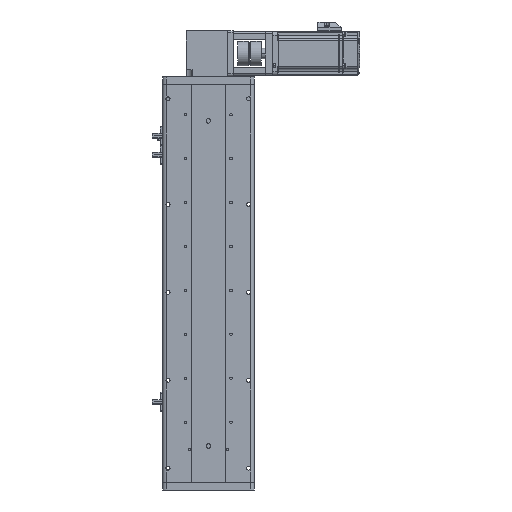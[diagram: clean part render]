
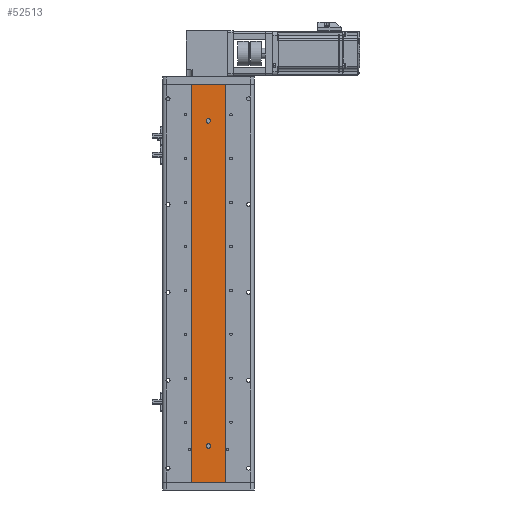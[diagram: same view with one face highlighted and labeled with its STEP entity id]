
A CAD part, front view. The second image highlights one B-rep face of the part: STEP entity #52513.
In plain terms, the highlighted planar face has unit normal (0, -1, 0).
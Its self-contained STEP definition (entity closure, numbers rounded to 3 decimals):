
#13 = CARTESIAN_POINT ( 'NONE',  ( 0., 1., 222. ) ) ;
#335 = VERTEX_POINT ( 'NONE', #32648 ) ;
#671 = ORIENTED_EDGE ( 'NONE', *, *, #19898, .T. ) ;
#825 = ORIENTED_EDGE ( 'NONE', *, *, #38889, .F. ) ;
#1216 = ORIENTED_EDGE ( 'NONE', *, *, #50485, .F. ) ;
#1991 = CARTESIAN_POINT ( 'NONE',  ( 0., 1., -222. ) ) ;
#2532 = AXIS2_PLACEMENT_3D ( 'NONE', #17076, #48870, #21684 ) ;
#3093 = CARTESIAN_POINT ( 'NONE',  ( -23., 1., 272. ) ) ;
#3644 = CIRCLE ( 'NONE', #5692, 3. ) ;
#4579 = DIRECTION ( 'NONE',  ( 0., 0., -1. ) ) ;
#4645 = CARTESIAN_POINT ( 'NONE',  ( 23., 1., 272.001 ) ) ;
#5405 = CIRCLE ( 'NONE', #22042, 3. ) ;
#5692 = AXIS2_PLACEMENT_3D ( 'NONE', #52268, #25046, #56822 ) ;
#6343 = CARTESIAN_POINT ( 'NONE',  ( -23., 1., 272.001 ) ) ;
#6562 = DIRECTION ( 'NONE',  ( 0., 0., -1. ) ) ;
#7645 = VECTOR ( 'NONE', #19999, 1000. ) ;
#8201 = LINE ( 'NONE', #4645, #20262 ) ;
#9717 = VERTEX_POINT ( 'NONE', #49150 ) ;
#11901 = EDGE_CURVE ( 'NONE', #19544, #24115, #33235, .T. ) ;
#13206 = VERTEX_POINT ( 'NONE', #51911 ) ;
#13881 = CARTESIAN_POINT ( 'NONE',  ( 23., 1., 272.001 ) ) ;
#15242 = DIRECTION ( 'NONE',  ( 1., 0., 0. ) ) ;
#15269 = FACE_BOUND ( 'NONE', #46506, .T. ) ;
#15697 = EDGE_CURVE ( 'NONE', #19544, #31781, #46306, .T. ) ;
#16548 = CARTESIAN_POINT ( 'NONE',  ( 23., 1., 272. ) ) ;
#16976 = CIRCLE ( 'NONE', #18260, 3. ) ;
#17076 = CARTESIAN_POINT ( 'NONE',  ( 0., 1., 222. ) ) ;
#18153 = EDGE_CURVE ( 'NONE', #9717, #335, #5405, .T. ) ;
#18260 = AXIS2_PLACEMENT_3D ( 'NONE', #13, #31771, #4579 ) ;
#18880 = ORIENTED_EDGE ( 'NONE', *, *, #18153, .F. ) ;
#19544 = VERTEX_POINT ( 'NONE', #3093 ) ;
#19898 = EDGE_CURVE ( 'NONE', #24115, #23692, #35165, .T. ) ;
#19999 = DIRECTION ( 'NONE',  ( 0., 0., -1. ) ) ;
#20262 = VECTOR ( 'NONE', #36598, 1000. ) ;
#21684 = DIRECTION ( 'NONE',  ( 0., 0., -1. ) ) ;
#22042 = AXIS2_PLACEMENT_3D ( 'NONE', #1991, #33769, #6562 ) ;
#23692 = VERTEX_POINT ( 'NONE', #48820 ) ;
#24115 = VERTEX_POINT ( 'NONE', #47618 ) ;
#24268 = CIRCLE ( 'NONE', #2532, 3. ) ;
#25046 = DIRECTION ( 'NONE',  ( 0., -1., 0. ) ) ;
#27632 = DIRECTION ( 'NONE',  ( 0., 0., 1. ) ) ;
#28267 = DIRECTION ( 'NONE',  ( 1., 0., 0. ) ) ;
#28797 = FACE_BOUND ( 'NONE', #54843, .T. ) ;
#31771 = DIRECTION ( 'NONE',  ( 0., -1., 0. ) ) ;
#31781 = VERTEX_POINT ( 'NONE', #16548 ) ;
#31979 = PLANE ( 'NONE',  #41914 ) ;
#32511 = EDGE_CURVE ( 'NONE', #13206, #49801, #16976, .T. ) ;
#32648 = CARTESIAN_POINT ( 'NONE',  ( 0., 1., -225. ) ) ;
#33006 = ORIENTED_EDGE ( 'NONE', *, *, #15697, .F. ) ;
#33235 = LINE ( 'NONE', #6343, #7645 ) ;
#33769 = DIRECTION ( 'NONE',  ( 0., -1., 0. ) ) ;
#35165 = LINE ( 'NONE', #46299, #57878 ) ;
#36260 = EDGE_CURVE ( 'NONE', #49801, #13206, #24268, .T. ) ;
#36598 = DIRECTION ( 'NONE',  ( 0., 0., -1. ) ) ;
#38073 = CARTESIAN_POINT ( 'NONE',  ( 0., 1., 225. ) ) ;
#38889 = EDGE_CURVE ( 'NONE', #31781, #23692, #8201, .T. ) ;
#39467 = FACE_OUTER_BOUND ( 'NONE', #55529, .T. ) ;
#41278 = ORIENTED_EDGE ( 'NONE', *, *, #36260, .F. ) ;
#41914 = AXIS2_PLACEMENT_3D ( 'NONE', #13881, #54814, #27632 ) ;
#43103 = ORIENTED_EDGE ( 'NONE', *, *, #32511, .F. ) ;
#46299 = CARTESIAN_POINT ( 'NONE',  ( 23., 1., -272. ) ) ;
#46306 = LINE ( 'NONE', #47026, #56980 ) ;
#46506 = EDGE_LOOP ( 'NONE', ( #1216, #18880 ) ) ;
#47026 = CARTESIAN_POINT ( 'NONE',  ( 23., 1., 272. ) ) ;
#47618 = CARTESIAN_POINT ( 'NONE',  ( -23., 1., -272. ) ) ;
#48820 = CARTESIAN_POINT ( 'NONE',  ( 23., 1., -272. ) ) ;
#48870 = DIRECTION ( 'NONE',  ( 0., -1., 0. ) ) ;
#49150 = CARTESIAN_POINT ( 'NONE',  ( 0., 1., -219. ) ) ;
#49801 = VERTEX_POINT ( 'NONE', #38073 ) ;
#50485 = EDGE_CURVE ( 'NONE', #335, #9717, #3644, .T. ) ;
#51911 = CARTESIAN_POINT ( 'NONE',  ( 0., 1., 219. ) ) ;
#52268 = CARTESIAN_POINT ( 'NONE',  ( 0., 1., -222. ) ) ;
#52513 = ADVANCED_FACE ( 'NONE', ( #28797, #15269, #39467 ), #31979, .F. ) ;
#53067 = ORIENTED_EDGE ( 'NONE', *, *, #11901, .T. ) ;
#54814 = DIRECTION ( 'NONE',  ( 0., 1., 0. ) ) ;
#54843 = EDGE_LOOP ( 'NONE', ( #43103, #41278 ) ) ;
#55529 = EDGE_LOOP ( 'NONE', ( #53067, #671, #825, #33006 ) ) ;
#56822 = DIRECTION ( 'NONE',  ( 0., 0., -1. ) ) ;
#56980 = VECTOR ( 'NONE', #15242, 1000. ) ;
#57878 = VECTOR ( 'NONE', #28267, 1000. ) ;
